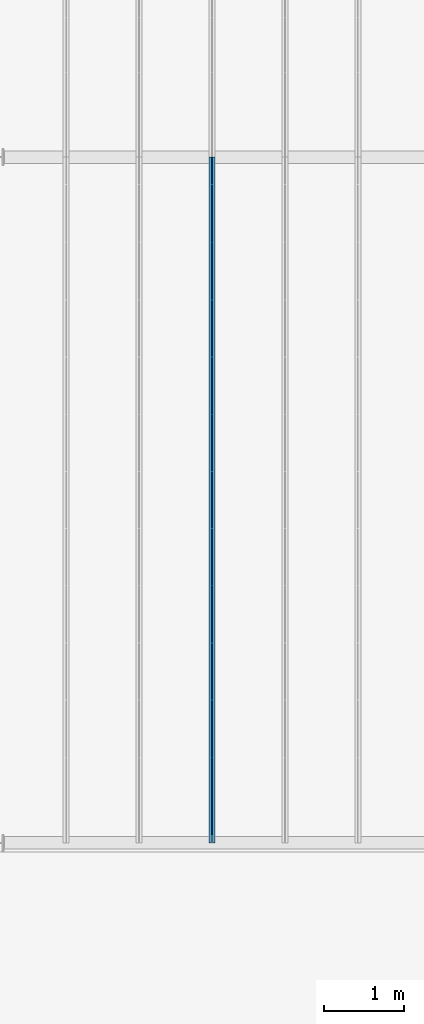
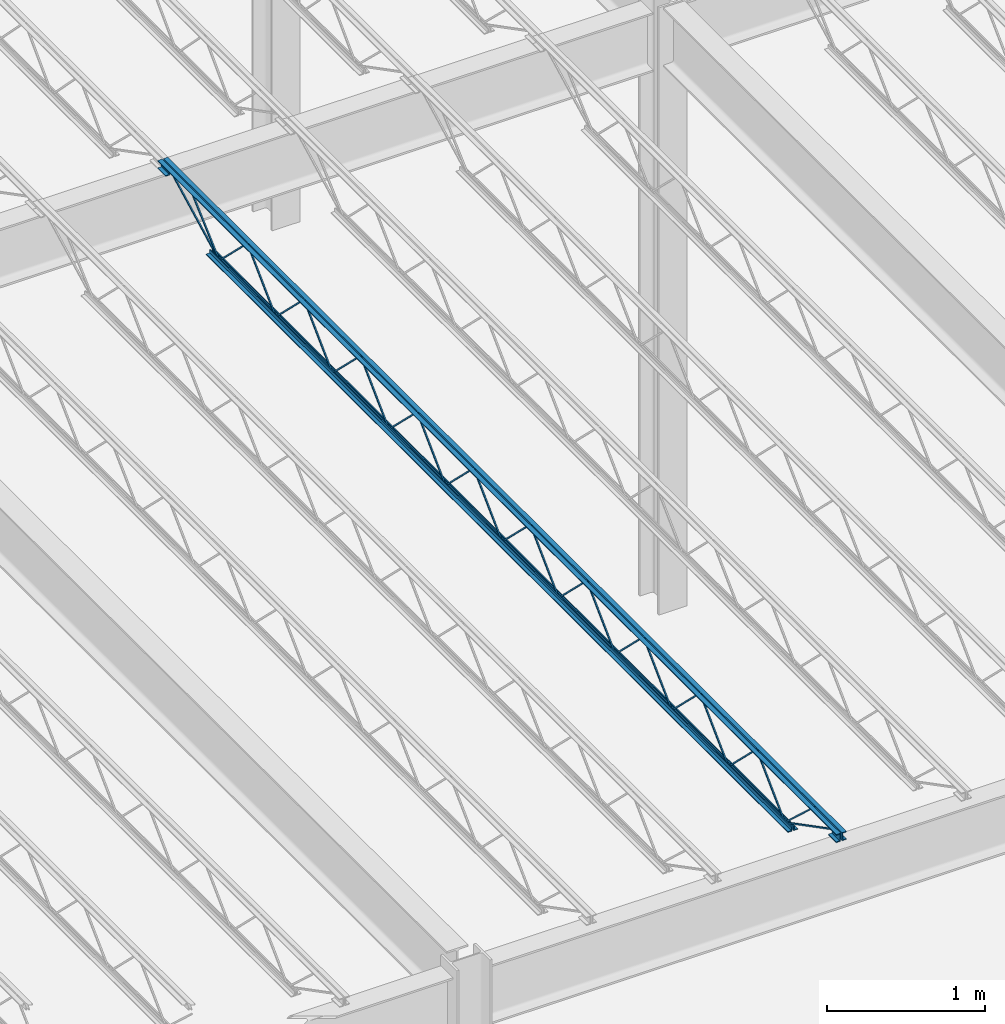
# One storey, part 42 of 119: 1 beam.
"""IFC2X3 building model written with IfcOpenShell, lengths in metres."""

from ifc_helpers import new_model, entity, si_unit, converted_unit, frame, origin, place, context, project, spatial, face_set, surface_model, element, save


model = new_model("IFC2X3")

# Units and contexts
model_context = context("Model", 3, precision=1e-09, world=origin())
plan_context = context("Plan", 3, precision=1e-09, world=origin())
ifc_project = project(units=[si_unit("LENGTHUNIT", "METRE"), si_unit("AREAUNIT", "SQUARE_METRE"), si_unit("VOLUMEUNIT", "CUBIC_METRE"), converted_unit("PLANEANGLEUNIT", "DEGREE", entity("IfcRatioMeasure", 0.01745329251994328), si_unit("PLANEANGLEUNIT", "RADIAN"), dimensions=[0, 0, 0, 0, 0, 0, 0]), si_unit("TIMEUNIT", "SECOND")], contexts=[model_context, plan_context])

# Site, building, storey
site_placement = place(None, origin())
site = spatial("IfcSite", under=ifc_project, at=site_placement, Name="Default", CompositionType="ELEMENT")
building_placement = place(site_placement, origin())
building = spatial("IfcBuilding", under=site, at=building_placement, CompositionType="ELEMENT")
storey_placement = place(building_placement, frame((0.0, 0.0, 4.570000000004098)))
storey = spatial("IfcBuildingStorey", under=building, at=storey_placement, Name="Second Floor", CompositionType="ELEMENT", Elevation=4.570000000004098)

# Beam
beam_placement = place(storey_placement, frame((-23.74246428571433, 10.04000000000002, 4.323999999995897), z_axis=(0.0, 0.0, 1.0), x_axis=(-1.0, 0.0, 0.0)))
element("IfcBeam", 1, at=beam_placement, inside=storey, Name="M_K-Series Bar Joist-Rod Web:14K1:14K1", ObjectType="M_K-Series Bar Joist-Rod Web:14K1", context=model_context, shape_type="SurfaceModel", body=[
    surface_model("IfcFaceBasedSurfaceModel", [(-0.03200000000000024, -2.141200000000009, 0.01110000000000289), (-0.04149999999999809, -2.141200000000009, 0.01110000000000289), (-0.04149999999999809, -2.141200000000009, 0.001600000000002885), (-0.03200000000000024, -2.141200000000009, 0.001600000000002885), (-0.04149999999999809, -2.139961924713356, 0.01110000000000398), (-0.03200000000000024, -2.139961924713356, 0.01110000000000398), (-0.04149999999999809, -2.136088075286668, 0.001600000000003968), (-0.04149999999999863, -1.78513807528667, 0.3449000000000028), (-0.04149999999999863, -1.782661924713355, 0.3449000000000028), (-0.04149999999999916, -1.431711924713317, 0.001600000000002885), (-0.04149999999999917, -1.426600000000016, 0.001600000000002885), (-0.04149999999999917, -1.426600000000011, 0.01110000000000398), (-0.04149999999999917, -1.42783807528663, 0.01110000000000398), (-0.04149999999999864, -1.778788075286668, 0.3544000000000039), (-0.04149999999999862, -1.789011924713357, 0.3544000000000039), (-0.03199999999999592, -2.136088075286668, 0.001600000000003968), (-0.03200000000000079, -1.78513807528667, 0.3449000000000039), (-0.03200000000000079, -1.782661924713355, 0.3449000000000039), (-0.03200000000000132, -1.431711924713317, 0.001600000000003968), (-0.03200000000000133, -1.426600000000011, 0.001600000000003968), (-0.03200000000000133, -1.426600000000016, 0.01110000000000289), (-0.03200000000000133, -1.42783807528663, 0.01110000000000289), (-0.03200000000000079, -1.778788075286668, 0.3544000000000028), (-0.03200000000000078, -1.789011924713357, 0.3544000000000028), (-0.03199999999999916, -2.855800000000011, 0.01110000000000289), (-0.04149999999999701, -2.855800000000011, 0.01110000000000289), (-0.04149999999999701, -2.855800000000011, 0.001600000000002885), (-0.03199999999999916, -2.855800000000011, 0.001600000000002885), (-0.04149999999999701, -2.854561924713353, 0.01110000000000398), (-0.03199999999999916, -2.854561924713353, 0.01110000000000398), (-0.04149999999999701, -2.850688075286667, 0.001600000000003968), (-0.04149999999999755, -2.499738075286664, 0.3449000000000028), (-0.04149999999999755, -2.497261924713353, 0.3449000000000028), (-0.04149999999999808, -2.146311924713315, 0.001600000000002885), (-0.04149999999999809, -2.141200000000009, 0.01110000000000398), (-0.04149999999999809, -2.142438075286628, 0.01110000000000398), (-0.04149999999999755, -2.493388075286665, 0.3544000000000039), (-0.04149999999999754, -2.503611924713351, 0.3544000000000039), (-0.03199999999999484, -2.850688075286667, 0.001600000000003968), (-0.0319999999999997, -2.499738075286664, 0.3449000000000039), (-0.0319999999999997, -2.497261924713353, 0.3449000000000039), (-0.03200000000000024, -2.146311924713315, 0.001600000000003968), (-0.03200000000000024, -2.141200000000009, 0.001600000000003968), (-0.03200000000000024, -2.142438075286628, 0.01110000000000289), (-0.03199999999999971, -2.493388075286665, 0.3544000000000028), (-0.0319999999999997, -2.503611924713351, 0.3544000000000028), (-0.03200000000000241, -3.570400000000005, 0.01110000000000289), (-0.04150000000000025, -3.570400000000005, 0.01110000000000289), (-0.04150000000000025, -3.570400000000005, 0.001600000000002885), (-0.03200000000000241, -3.570400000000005, 0.001600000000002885), (-0.04150000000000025, -3.569161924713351, 0.01110000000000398), (-0.03200000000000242, -3.569161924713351, 0.01110000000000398), (-0.04150000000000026, -3.565288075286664, 0.001600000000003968), (-0.04150000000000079, -3.214338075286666, 0.3449000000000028), (-0.04150000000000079, -3.21186192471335, 0.3449000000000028), (-0.04150000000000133, -2.860911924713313, 0.001600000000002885), (-0.04149999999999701, -2.855800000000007, 0.001600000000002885), (-0.04150000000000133, -2.855800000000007, 0.01110000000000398), (-0.04150000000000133, -2.857038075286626, 0.01110000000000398), (-0.0415000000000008, -3.207988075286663, 0.3544000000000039), (-0.04150000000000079, -3.218211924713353, 0.3544000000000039), (-0.03199999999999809, -3.565288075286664, 0.001600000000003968), (-0.03200000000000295, -3.214338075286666, 0.3449000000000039), (-0.03200000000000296, -3.21186192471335, 0.3449000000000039), (-0.03200000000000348, -2.860911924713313, 0.001600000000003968), (-0.03200000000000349, -2.855800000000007, 0.001600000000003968), (-0.03199999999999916, -2.855800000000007, 0.01110000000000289), (-0.03200000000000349, -2.857038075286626, 0.01110000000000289), (-0.03200000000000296, -3.207988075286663, 0.3544000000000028), (-0.03200000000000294, -3.218211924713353, 0.3544000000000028), (-0.03200000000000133, -4.285000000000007, 0.01110000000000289), (-0.04149999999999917, -4.285000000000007, 0.01110000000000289), (-0.04149999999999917, -4.285000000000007, 0.001600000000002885), (-0.03200000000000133, -4.285000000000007, 0.001600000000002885), (-0.04149999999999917, -4.283761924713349, 0.01110000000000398), (-0.03200000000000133, -4.283761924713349, 0.01110000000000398), (-0.04149999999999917, -4.279888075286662, 0.001600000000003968), (-0.0414999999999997, -3.92893807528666, 0.3449000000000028), (-0.04149999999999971, -3.926461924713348, 0.3449000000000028), (-0.04150000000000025, -3.575511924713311, 0.001600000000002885), (-0.04150000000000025, -3.570400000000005, 0.01110000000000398), (-0.04150000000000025, -3.571638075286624, 0.01110000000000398), (-0.04149999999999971, -3.922588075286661, 0.3544000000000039), (-0.0414999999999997, -3.932811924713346, 0.3544000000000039), (-0.031999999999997, -4.279888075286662, 0.001600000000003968), (-0.03200000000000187, -3.92893807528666, 0.3449000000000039), (-0.03200000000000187, -3.926461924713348, 0.3449000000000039), (-0.0320000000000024, -3.575511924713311, 0.001600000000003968), (-0.03200000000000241, -3.570400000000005, 0.001600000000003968), (-0.03200000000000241, -3.571638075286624, 0.01110000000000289), (-0.03200000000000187, -3.922588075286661, 0.3544000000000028), (-0.03200000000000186, -3.932811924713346, 0.3544000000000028), (-0.03200000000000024, -4.9996, 0.01110000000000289), (-0.04149999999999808, -4.9996, 0.01110000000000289), (-0.04149999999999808, -4.9996, 0.001600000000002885), (-0.03200000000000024, -4.9996, 0.001600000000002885), (-0.04149999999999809, -4.998361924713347, 0.01110000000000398), (-0.03200000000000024, -4.998361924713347, 0.01110000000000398), (-0.04149999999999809, -4.994488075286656, 0.001600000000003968), (-0.04149999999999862, -4.643538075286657, 0.3449000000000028), (-0.04149999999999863, -4.641061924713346, 0.3449000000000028), (-0.04149999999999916, -4.290111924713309, 0.001600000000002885), (-0.04149999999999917, -4.285000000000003, 0.001600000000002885), (-0.04149999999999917, -4.285000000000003, 0.01110000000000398), (-0.04149999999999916, -4.286238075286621, 0.01110000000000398), (-0.04149999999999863, -4.637188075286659, 0.3544000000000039), (-0.04149999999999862, -4.647411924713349, 0.3544000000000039), (-0.03199999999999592, -4.99448807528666, 0.001600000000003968), (-0.03200000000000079, -4.643538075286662, 0.3449000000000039), (-0.03200000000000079, -4.641061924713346, 0.3449000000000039), (-0.03200000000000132, -4.290111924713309, 0.001600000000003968), (-0.03200000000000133, -4.285000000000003, 0.001600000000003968), (-0.03200000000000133, -4.285000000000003, 0.01110000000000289), (-0.03200000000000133, -4.286238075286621, 0.01110000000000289), (-0.03200000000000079, -4.637188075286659, 0.3544000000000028), (-0.03200000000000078, -4.647411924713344, 0.3544000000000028), (-0.03200000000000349, -5.714200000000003, 0.01110000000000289), (-0.04150000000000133, -5.714200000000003, 0.01110000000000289), (-0.04150000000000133, -5.714200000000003, 0.001600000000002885), (-0.03200000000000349, -5.714200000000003, 0.001600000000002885), (-0.04150000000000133, -5.712961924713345, 0.01110000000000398), (-0.03200000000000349, -5.712961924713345, 0.01110000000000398), (-0.04149999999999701, -5.709088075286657, 0.001600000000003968), (-0.04149999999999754, -5.358138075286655, 0.3449000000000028), (-0.04149999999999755, -5.355661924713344, 0.3449000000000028), (-0.04149999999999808, -5.004711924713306, 0.001600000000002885), (-0.04150000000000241, -4.9996, 0.01110000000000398), (-0.04150000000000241, -5.00083807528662, 0.01110000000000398), (-0.04150000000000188, -5.351788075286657, 0.3544000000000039), (-0.04150000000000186, -5.362011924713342, 0.3544000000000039), (-0.03199999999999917, -5.709088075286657, 0.001600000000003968), (-0.03200000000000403, -5.358138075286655, 0.3449000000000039), (-0.03200000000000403, -5.355661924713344, 0.3449000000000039), (-0.03200000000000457, -5.004711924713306, 0.001600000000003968), (-0.03200000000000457, -4.9996, 0.001600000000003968), (-0.03200000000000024, -5.00083807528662, 0.01110000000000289), (-0.03199999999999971, -5.351788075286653, 0.3544000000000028), (-0.0319999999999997, -5.362011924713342, 0.3544000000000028), (-0.03200000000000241, -6.428799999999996, 0.01110000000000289), (-0.04150000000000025, -6.428799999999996, 0.01110000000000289), (-0.04150000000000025, -6.428799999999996, 0.001600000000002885), (-0.03200000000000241, -6.428799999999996, 0.001600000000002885), (-0.04150000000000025, -6.427561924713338, 0.01110000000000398), (-0.03200000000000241, -6.427561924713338, 0.01110000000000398), (-0.04150000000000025, -6.423688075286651, 0.001600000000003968), (-0.04150000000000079, -6.072738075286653, 0.3449000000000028), (-0.04150000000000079, -6.070261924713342, 0.3449000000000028), (-0.04150000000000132, -5.719311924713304, 0.001600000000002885), (-0.04150000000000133, -5.714199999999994, 0.001600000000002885), (-0.04150000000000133, -5.714199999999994, 0.01110000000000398), (-0.04150000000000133, -5.715438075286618, 0.01110000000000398), (-0.04150000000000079, -6.066388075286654, 0.3544000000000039), (-0.04150000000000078, -6.07661192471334, 0.3544000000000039), (-0.03199999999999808, -6.423688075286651, 0.001600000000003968), (-0.03200000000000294, -6.072738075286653, 0.3449000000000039), (-0.03200000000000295, -6.070261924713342, 0.3449000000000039), (-0.03200000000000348, -5.719311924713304, 0.001600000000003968), (-0.03200000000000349, -5.714199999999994, 0.001600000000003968), (-0.03200000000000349, -5.714199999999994, 0.01110000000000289), (-0.03200000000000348, -5.715438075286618, 0.01110000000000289), (-0.03200000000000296, -6.066388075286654, 0.3544000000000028), (-0.03200000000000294, -6.07661192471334, 0.3544000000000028), (-0.03200000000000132, -7.143399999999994, 0.01110000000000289), (-0.04149999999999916, -7.143399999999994, 0.01110000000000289), (-0.04149999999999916, -7.143399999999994, 0.001600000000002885), (-0.03200000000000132, -7.143399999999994, 0.001600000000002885), (-0.04149999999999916, -7.14216192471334, 0.01110000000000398), (-0.03200000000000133, -7.14216192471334, 0.01110000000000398), (-0.04149999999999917, -7.138288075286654, 0.001600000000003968), (-0.0414999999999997, -6.787338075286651, 0.3449000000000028), (-0.0414999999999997, -6.784861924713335, 0.3449000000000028), (-0.04150000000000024, -6.433911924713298, 0.001600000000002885), (-0.04150000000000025, -6.428799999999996, 0.01110000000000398), (-0.04150000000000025, -6.43003807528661, 0.01110000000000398), (-0.04149999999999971, -6.780988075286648, 0.3544000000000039), (-0.0414999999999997, -6.791211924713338, 0.3544000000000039), (-0.031999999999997, -7.138288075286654, 0.001600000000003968), (-0.03200000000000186, -6.787338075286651, 0.3449000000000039), (-0.03200000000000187, -6.784861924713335, 0.3449000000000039), (-0.0320000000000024, -6.433911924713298, 0.001600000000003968), (-0.03200000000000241, -6.428799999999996, 0.001600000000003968), (-0.0320000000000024, -6.43003807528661, 0.01110000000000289), (-0.03200000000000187, -6.780988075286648, 0.3544000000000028), (-0.03200000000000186, -6.791211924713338, 0.3544000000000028), (-0.03200000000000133, -1.426600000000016, 0.01109999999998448), (-0.04149999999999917, -1.426600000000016, 0.01109999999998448), (-0.04149999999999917, -1.426600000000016, 0.001599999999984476), (-0.03200000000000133, -1.426600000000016, 0.001599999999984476), (-0.04149999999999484, -1.425361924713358, 0.01109999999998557), (-0.031999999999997, -1.425361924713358, 0.01109999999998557), (-0.04149999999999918, -1.421488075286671, 0.001599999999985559), (-0.04149999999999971, -1.070538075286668, 0.3448999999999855), (-0.04149999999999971, -1.068061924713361, 0.3448999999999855), (-0.04150000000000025, -0.7171119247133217, 0.001599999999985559), (-0.04150000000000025, -0.7120000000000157, 0.001599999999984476), (-0.04150000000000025, -0.7120000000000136, 0.01109999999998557), (-0.04150000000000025, -0.7132380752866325, 0.01109999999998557), (-0.04149999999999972, -1.06418807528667, 0.3543999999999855), (-0.0414999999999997, -1.074411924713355, 0.3543999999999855), (-0.031999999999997, -1.421488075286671, 0.001599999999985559), (-0.03199999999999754, -1.070538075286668, 0.3448999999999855), (-0.03199999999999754, -1.068061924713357, 0.3448999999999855), (-0.03199999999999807, -0.7171119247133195, 0.001599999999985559), (-0.03199999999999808, -0.7120000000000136, 0.001599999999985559), (-0.03200000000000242, -0.7120000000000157, 0.01109999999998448), (-0.03199999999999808, -0.7132380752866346, 0.01109999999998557), (-0.03199999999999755, -1.064188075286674, 0.3543999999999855), (-0.03199999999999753, -1.074411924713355, 0.3543999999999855), (-0.03200000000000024, -7.857999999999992, 0.01110000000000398), (-0.04149999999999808, -7.857999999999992, 0.01110000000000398), (-0.04149999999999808, -7.857999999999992, 0.001600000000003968), (-0.03200000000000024, -7.857999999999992, 0.001600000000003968), (-0.04149999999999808, -7.856761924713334, 0.01110000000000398), (-0.03200000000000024, -7.856761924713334, 0.01110000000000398), (-0.04149999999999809, -7.852888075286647, 0.001600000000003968), (-0.04149999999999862, -7.501938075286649, 0.3449000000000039), (-0.04149999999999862, -7.499461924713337, 0.3449000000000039), (-0.04149999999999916, -7.1485119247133, 0.001600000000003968), (-0.04149999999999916, -7.14339999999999, 0.001600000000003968), (-0.04149999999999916, -7.14339999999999, 0.01110000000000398), (-0.04149999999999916, -7.144638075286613, 0.01110000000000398), (-0.04149999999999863, -7.49558807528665, 0.3544000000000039), (-0.04149999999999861, -7.505811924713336, 0.3544000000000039), (-0.03199999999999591, -7.852888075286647, 0.001600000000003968), (-0.03200000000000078, -7.501938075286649, 0.3449000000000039), (-0.03200000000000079, -7.499461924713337, 0.3449000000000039), (-0.03200000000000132, -7.1485119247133, 0.001600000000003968), (-0.03200000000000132, -7.14339999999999, 0.001600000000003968), (-0.03200000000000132, -7.14339999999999, 0.01110000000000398), (-0.03200000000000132, -7.144638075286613, 0.01110000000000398), (-0.03200000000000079, -7.49558807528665, 0.3544000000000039), (-0.03200000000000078, -7.505811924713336, 0.3544000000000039), (-0.04150000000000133, 0.0, 0.3559999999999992), (-0.07350000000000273, 0.0, 0.3559999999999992), (-0.07350000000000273, 0.0, 0.3494999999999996), (-0.04799999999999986, 0.0, 0.3494999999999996), (-0.04799999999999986, 0.0, 0.3239999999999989), (-0.04150000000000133, 0.0, 0.3239999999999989), (-0.03200000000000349, 0.0, 0.3559999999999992), (-0.03200000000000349, 0.0, 0.3239999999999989), (-0.02550000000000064, 0.0, 0.3239999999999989), (-0.02550000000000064, 0.0, 0.3494999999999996), (0.0, 0.0, 0.3494999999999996), (0.0, 0.0, 0.3559999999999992), (-0.04149999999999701, -8.569999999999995, 0.3559999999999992), (-0.07349999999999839, -8.569999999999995, 0.3559999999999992), (-0.07349999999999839, -8.569999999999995, 0.3494999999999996), (-0.04799999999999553, -8.569999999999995, 0.3494999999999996), (-0.04799999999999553, -8.569999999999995, 0.3239999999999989), (-0.04149999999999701, -8.569999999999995, 0.3239999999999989), (-0.03199999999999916, -8.569999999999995, 0.3559999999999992), (-0.03199999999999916, -8.569999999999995, 0.3239999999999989), (-0.02549999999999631, -8.569999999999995, 0.3239999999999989), (-0.02549999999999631, -8.569999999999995, 0.3494999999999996), (0.0, -8.569999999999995, 0.3494999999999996), (0.0, -8.569999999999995, 0.3559999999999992), (-0.03199999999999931, -8.470000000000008, 0.2924999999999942), (0.0, -8.470000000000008, 0.2924999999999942), (0.0, -8.470000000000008, 0.2989999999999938), (-0.02550000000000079, -8.470000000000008, 0.2989999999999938), (-0.02550000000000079, -8.470000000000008, 0.3239999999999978), (-0.03199999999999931, -8.470000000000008, 0.3239999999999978), (-0.07349999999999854, -8.470000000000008, 0.2924999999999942), (-0.04149999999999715, -8.470000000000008, 0.2924999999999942), (-0.04149999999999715, -8.470000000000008, 0.3239999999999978), (-0.048, -8.470000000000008, 0.3239999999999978), (-0.048, -8.470000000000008, 0.2989999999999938), (-0.07349999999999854, -8.470000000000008, 0.2989999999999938), (-0.03199999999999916, -8.569999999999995, 0.2924999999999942), (0.0, -8.569999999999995, 0.2924999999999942), (0.0, -8.569999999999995, 0.2989999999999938), (-0.02550000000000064, -8.569999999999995, 0.2989999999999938), (-0.02550000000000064, -8.569999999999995, 0.3239999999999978), (-0.03199999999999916, -8.569999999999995, 0.3239999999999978), (-0.07349999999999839, -8.569999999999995, 0.2924999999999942), (-0.04149999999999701, -8.569999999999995, 0.2924999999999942), (-0.04149999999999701, -8.569999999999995, 0.3239999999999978), (-0.04799999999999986, -8.569999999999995, 0.3239999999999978), (-0.04799999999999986, -8.569999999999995, 0.2989999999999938), (-0.07349999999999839, -8.569999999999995, 0.2989999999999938), (-0.04150000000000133, 0.0, 0.2924999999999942), (-0.04150000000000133, 0.0, 0.3239999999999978), (-0.04800000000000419, 0.0, 0.3239999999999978), (-0.04800000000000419, 0.0, 0.2989999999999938), (-0.07350000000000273, 0.0, 0.2989999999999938), (-0.07350000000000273, 0.0, 0.2924999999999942), (-0.03200000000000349, 0.0, 0.2924999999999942), (0.0, 0.0, 0.2924999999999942), (0.0, 0.0, 0.2989999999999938), (-0.02550000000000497, 0.0, 0.2989999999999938), (-0.02550000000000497, 0.0, 0.3239999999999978), (-0.03200000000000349, 0.0, 0.3239999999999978), (-0.04150000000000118, -0.09999999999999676, 0.2924999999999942), (-0.04150000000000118, -0.09999999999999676, 0.3239999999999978), (-0.04800000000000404, -0.09999999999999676, 0.3239999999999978), (-0.04800000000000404, -0.09999999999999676, 0.2989999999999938), (-0.07350000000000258, -0.09999999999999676, 0.2989999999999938), (-0.07350000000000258, -0.09999999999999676, 0.2924999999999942), (-0.03200000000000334, -0.09999999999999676, 0.2924999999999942), (0.0, -0.09999999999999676, 0.2924999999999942), (0.0, -0.09999999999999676, 0.2989999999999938), (-0.02550000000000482, -0.09999999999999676, 0.2989999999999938), (-0.02550000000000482, -0.09999999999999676, 0.3239999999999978), (-0.03200000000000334, -0.09999999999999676, 0.3239999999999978), (-0.04150000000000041, -0.6119999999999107, 0.0), (-0.04150000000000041, -0.6119999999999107, 0.03199999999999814), (-0.04799999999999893, -0.6119999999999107, 0.03199999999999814), (-0.04799999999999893, -0.6119999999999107, 0.006499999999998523), (-0.0735000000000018, -0.6119999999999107, 0.006499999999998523), (-0.0735000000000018, -0.6119999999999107, 0.0), (-0.03200000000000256, -0.6119999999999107, 0.0), (0.0, -0.6119999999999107, 0.0), (0.0, -0.6119999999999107, 0.006499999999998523), (-0.02549999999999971, -0.6119999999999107, 0.006499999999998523), (-0.02549999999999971, -0.6119999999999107, 0.03199999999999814), (-0.03200000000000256, -0.6119999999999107, 0.03199999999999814), (-0.04149999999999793, -7.957999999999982, 0.0), (-0.04149999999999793, -7.957999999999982, 0.03199999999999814), (-0.04799999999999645, -7.957999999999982, 0.03199999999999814), (-0.04799999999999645, -7.957999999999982, 0.006499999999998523), (-0.07349999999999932, -7.957999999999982, 0.006499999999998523), (-0.07349999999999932, -7.957999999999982, 0.0), (-0.03200000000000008, -7.957999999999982, 0.0), (0.0, -7.957999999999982, 0.0), (0.0, -7.957999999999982, 0.006499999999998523), (-0.02549999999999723, -7.957999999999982, 0.006499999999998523), (-0.02549999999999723, -7.957999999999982, 0.03199999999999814), (-0.03200000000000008, -7.957999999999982, 0.03199999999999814), (-0.03200000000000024, -7.855811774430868, 0.01056594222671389), (-0.04149999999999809, -7.855811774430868, 0.01056594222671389), (-0.04149999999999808, -7.860188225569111, 0.002134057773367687), (-0.03200000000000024, -7.860188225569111, 0.00213405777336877), (-0.03199999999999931, -8.468840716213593, 0.3287499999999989), (-0.03199999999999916, -8.569999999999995, 0.3287499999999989), (-0.03199999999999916, -8.569999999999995, 0.3192499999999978), (-0.03199999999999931, -8.471159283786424, 0.3192499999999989), (-0.04150000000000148, -8.471159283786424, 0.3192499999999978), (-0.04149999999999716, -8.468840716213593, 0.3287499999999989), (-0.04149999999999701, -8.569999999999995, 0.3287499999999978), (-0.04149999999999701, -8.569999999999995, 0.3192499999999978), (-0.03199999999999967, -8.235257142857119, 0.3417000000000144), (-0.04149999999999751, -8.235257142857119, 0.3417000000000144), (-0.04149999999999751, -8.235257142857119, 0.3322000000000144), (-0.03199999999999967, -8.235257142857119, 0.3322000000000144), (-0.04149999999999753, -8.220724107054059, 0.3417000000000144), (-0.03199999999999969, -8.220724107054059, 0.3417000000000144), (-0.04149999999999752, -8.22439017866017, 0.3322000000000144), (-0.04149999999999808, -7.861190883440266, 0.002831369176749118), (-0.04149999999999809, -7.854809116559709, 0.009868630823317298), (-0.03199999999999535, -8.22439017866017, 0.3322000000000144), (-0.03200000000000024, -7.861190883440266, 0.002831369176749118), (-0.03200000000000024, -7.854809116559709, 0.009868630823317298), (-0.03200000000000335, -0.0978117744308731, 0.3197840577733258), (-0.03200000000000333, -0.1021882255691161, 0.328215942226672), (-0.04150000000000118, -0.1021882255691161, 0.328215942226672), (-0.04150000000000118, -0.0978117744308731, 0.3197840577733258), (-0.03200000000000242, -0.7098117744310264, 0.002134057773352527), (-0.03200000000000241, -0.7141882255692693, 0.01056594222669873), (-0.04150000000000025, -0.7141882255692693, 0.01056594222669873), (-0.04150000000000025, -0.7098117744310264, 0.002134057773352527), (-0.03200000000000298, -0.3369634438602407, 0.3461600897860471), (-0.03200000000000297, -0.3434079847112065, 0.3531399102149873), (-0.04150000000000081, -0.3434079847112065, 0.3531399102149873), (-0.04150000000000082, -0.3369634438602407, 0.3461600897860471), (-0.03200000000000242, -0.708777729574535, 0.00286008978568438), (-0.03200000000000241, -0.7152222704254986, 0.009839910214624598), (-0.04150000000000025, -0.7152222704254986, 0.009839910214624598), (-0.04150000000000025, -0.708777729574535, 0.00286008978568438)], [face_set([[[0, 1, 2, 3]], [[1, 4, 5, 0]], [[2, 6, 7, 8, 9, 10, 11, 12, 13, 14, 4, 1]], [[3, 2, 6, 15]], [[0, 3, 15, 16, 17, 18, 19, 20, 21, 22, 23, 5]], [[4, 5, 23, 14]], [[15, 16, 7, 6]], [[14, 13, 22, 23]], [[16, 7, 8, 17]], [[13, 12, 21, 22]], [[17, 8, 9, 18]], [[20, 11, 10, 19]], [[12, 11, 20, 21]], [[18, 9, 10, 19]]]), face_set([[[24, 25, 26, 27]], [[25, 28, 29, 24]], [[26, 30, 31, 32, 33, 2, 34, 35, 36, 37, 28, 25]], [[27, 26, 30, 38]], [[24, 27, 38, 39, 40, 41, 42, 0, 43, 44, 45, 29]], [[28, 29, 45, 37]], [[38, 39, 31, 30]], [[37, 36, 44, 45]], [[39, 31, 32, 40]], [[36, 35, 43, 44]], [[40, 32, 33, 41]], [[0, 34, 2, 42]], [[35, 34, 0, 43]], [[41, 33, 2, 42]]]), face_set([[[46, 47, 48, 49]], [[47, 50, 51, 46]], [[48, 52, 53, 54, 55, 56, 57, 58, 59, 60, 50, 47]], [[49, 48, 52, 61]], [[46, 49, 61, 62, 63, 64, 65, 66, 67, 68, 69, 51]], [[50, 51, 69, 60]], [[61, 62, 53, 52]], [[60, 59, 68, 69]], [[62, 53, 54, 63]], [[59, 58, 67, 68]], [[63, 54, 55, 64]], [[66, 57, 56, 65]], [[58, 57, 66, 67]], [[64, 55, 56, 65]]]), face_set([[[70, 71, 72, 73]], [[71, 74, 75, 70]], [[72, 76, 77, 78, 79, 48, 80, 81, 82, 83, 74, 71]], [[73, 72, 76, 84]], [[70, 73, 84, 85, 86, 87, 88, 46, 89, 90, 91, 75]], [[74, 75, 91, 83]], [[84, 85, 77, 76]], [[83, 82, 90, 91]], [[85, 77, 78, 86]], [[82, 81, 89, 90]], [[86, 78, 79, 87]], [[46, 80, 48, 88]], [[81, 80, 46, 89]], [[87, 79, 48, 88]]]), face_set([[[92, 93, 94, 95]], [[93, 96, 97, 92]], [[94, 98, 99, 100, 101, 102, 103, 104, 105, 106, 96, 93]], [[95, 94, 98, 107]], [[92, 95, 107, 108, 109, 110, 111, 112, 113, 114, 115, 97]], [[96, 97, 115, 106]], [[107, 108, 99, 98]], [[106, 105, 114, 115]], [[108, 99, 100, 109]], [[105, 104, 113, 114]], [[109, 100, 101, 110]], [[112, 103, 102, 111]], [[104, 103, 112, 113]], [[110, 101, 102, 111]]]), face_set([[[116, 117, 118, 119]], [[117, 120, 121, 116]], [[118, 122, 123, 124, 125, 94, 126, 127, 128, 129, 120, 117]], [[119, 118, 122, 130]], [[116, 119, 130, 131, 132, 133, 134, 92, 135, 136, 137, 121]], [[120, 121, 137, 129]], [[130, 131, 123, 122]], [[129, 128, 136, 137]], [[131, 123, 124, 132]], [[128, 127, 135, 136]], [[132, 124, 125, 133]], [[92, 126, 94, 134]], [[127, 126, 92, 135]], [[133, 125, 94, 134]]]), face_set([[[138, 139, 140, 141]], [[139, 142, 143, 138]], [[140, 144, 145, 146, 147, 148, 149, 150, 151, 152, 142, 139]], [[141, 140, 144, 153]], [[138, 141, 153, 154, 155, 156, 157, 158, 159, 160, 161, 143]], [[142, 143, 161, 152]], [[153, 154, 145, 144]], [[152, 151, 160, 161]], [[154, 145, 146, 155]], [[151, 150, 159, 160]], [[155, 146, 147, 156]], [[158, 149, 148, 157]], [[150, 149, 158, 159]], [[156, 147, 148, 157]]]), face_set([[[162, 163, 164, 165]], [[163, 166, 167, 162]], [[164, 168, 169, 170, 171, 140, 172, 173, 174, 175, 166, 163]], [[165, 164, 168, 176]], [[162, 165, 176, 177, 178, 179, 180, 138, 181, 182, 183, 167]], [[166, 167, 183, 175]], [[176, 177, 169, 168]], [[175, 174, 182, 183]], [[177, 169, 170, 178]], [[174, 173, 181, 182]], [[178, 170, 171, 179]], [[138, 172, 140, 180]], [[173, 172, 138, 181]], [[179, 171, 140, 180]]]), face_set([[[184, 185, 186, 187]], [[185, 188, 189, 184]], [[186, 190, 191, 192, 193, 194, 195, 196, 197, 198, 188, 185]], [[187, 186, 190, 199]], [[184, 187, 199, 200, 201, 202, 203, 204, 205, 206, 207, 189]], [[188, 189, 207, 198]], [[199, 200, 191, 190]], [[198, 197, 206, 207]], [[200, 191, 192, 201]], [[197, 196, 205, 206]], [[201, 192, 193, 202]], [[204, 195, 194, 203]], [[196, 195, 204, 205]], [[202, 193, 194, 203]]]), face_set([[[208, 209, 210, 211]], [[209, 212, 213, 208]], [[210, 214, 215, 216, 217, 218, 219, 220, 221, 222, 212, 209]], [[211, 210, 214, 223]], [[208, 211, 223, 224, 225, 226, 227, 228, 229, 230, 231, 213]], [[212, 213, 231, 222]], [[223, 224, 215, 214]], [[222, 221, 230, 231]], [[224, 215, 216, 225]], [[221, 220, 229, 230]], [[225, 216, 217, 226]], [[228, 219, 218, 227]], [[220, 219, 228, 229]], [[226, 217, 218, 227]]]), face_set([[[232, 233, 234, 235, 236, 237]], [[238, 239, 240, 241, 242, 243]], [[244, 245, 246, 247, 248, 249]], [[250, 251, 252, 253, 254, 255]], [[237, 232, 244, 249]], [[236, 237, 249, 248]], [[235, 247, 248, 236]], [[234, 235, 247, 246]], [[233, 245, 246, 234]], [[232, 244, 245, 233]], [[243, 255, 250, 238]], [[242, 243, 255, 254]], [[241, 242, 254, 253]], [[240, 241, 253, 252]], [[239, 240, 252, 251]], [[238, 250, 251, 239]]]), face_set([[[256, 257, 258, 259, 260, 261]], [[262, 263, 264, 265, 266, 267]], [[268, 269, 270, 271, 272, 273]], [[274, 275, 276, 277, 278, 279]], [[261, 273, 268, 256]], [[260, 272, 273, 261]], [[259, 260, 272, 271]], [[258, 270, 271, 259]], [[257, 258, 270, 269]], [[256, 257, 269, 268]], [[267, 279, 274, 262]], [[266, 278, 279, 267]], [[265, 277, 278, 266]], [[264, 276, 277, 265]], [[263, 264, 276, 275]], [[262, 263, 275, 274]]]), face_set([[[280, 281, 282, 283, 284, 285]], [[286, 287, 288, 289, 290, 291]], [[292, 293, 294, 295, 296, 297]], [[298, 299, 300, 301, 302, 303]], [[285, 280, 292, 297]], [[284, 296, 297, 285]], [[283, 295, 296, 284]], [[282, 294, 295, 283]], [[281, 293, 294, 282]], [[280, 281, 293, 292]], [[291, 303, 298, 286]], [[290, 302, 303, 291]], [[289, 290, 302, 301]], [[288, 300, 301, 289]], [[287, 288, 300, 299]], [[286, 287, 299, 298]]]), face_set([[[304, 305, 306, 307, 308, 309]], [[310, 311, 312, 313, 314, 315]], [[316, 317, 318, 319, 320, 321]], [[322, 323, 324, 325, 326, 327]], [[309, 304, 316, 321]], [[308, 320, 321, 309]], [[307, 319, 320, 308]], [[306, 318, 319, 307]], [[305, 317, 318, 306]], [[304, 305, 317, 316]], [[315, 327, 322, 310]], [[314, 326, 327, 315]], [[313, 314, 326, 325]], [[312, 324, 325, 313]], [[311, 312, 324, 323]], [[310, 311, 323, 322]]]), face_set([[[328, 329, 330, 331]], [[331, 328, 332, 333, 334, 335]], [[330, 331, 335, 336]], [[329, 337, 338, 339, 336, 330]], [[328, 332, 337, 329]], [[333, 338, 339, 334]], [[336, 335, 334, 339]], [[332, 333, 338, 337]]]), face_set([[[340, 341, 342, 343]], [[341, 344, 345, 340]], [[342, 346, 347, 348, 344, 341]], [[343, 342, 346, 349]], [[340, 343, 349, 350, 351, 345]], [[351, 348, 347, 350]], [[344, 348, 351, 345]], [[349, 346, 347, 350]]]), face_set([[[352, 353, 354, 355]], [[356, 357, 358, 359]], [[355, 352, 356, 359]], [[354, 358, 359, 355]], [[353, 357, 358, 354]], [[352, 353, 357, 356]]]), face_set([[[360, 361, 362, 363]], [[364, 365, 366, 367]], [[363, 367, 364, 360]], [[362, 366, 367, 363]], [[361, 362, 366, 365]], [[360, 361, 365, 364]]])]),
])

save(model, "model.ifc")
